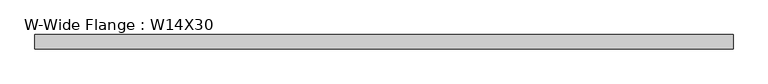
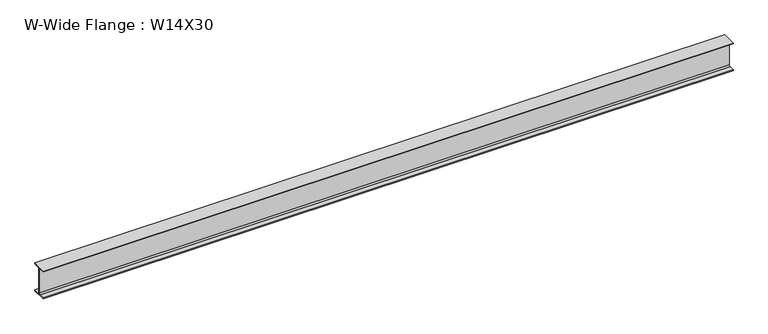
"""IFC4 building model written with IfcOpenShell, lengths in millimetres: beam geometry, W-Wide Flange : W14X30."""

from ifc_helpers import new_model, si_unit, point, frame, frame_2d, origin, place, context, project, spatial, polyline, circle_curve, trimmed, segment, composite_curve, outline, extrude, source, transform, mapped, element, save


def w_wide_flange_w14x30_a3fd6266(model_context):
    return source(origin(), model_context, "Body", "SweptSolid", [
        extrude(outline(composite_curve([segment(polyline([(85.4769531, -165.9433594), (85.4769531, -175.7660156), (-85.4769531, -175.7660156), (-85.4769531, -165.9433594), (-22.1753906, -165.9433594)]), True, "CONTINUOUS"), segment(trimmed(circle_curve(frame_2d((-22.1753906, -147.1910156)), 18.7523438), [point((-22.1753906, -165.9433594))], [point((-3.4230469, -147.1910156))], True, "CARTESIAN"), True, "CONTINUOUS"), segment(polyline([(-3.4230469, -147.1910156), (-3.4230469, 147.1910156)]), True, "CONTINUOUS"), segment(trimmed(circle_curve(frame_2d((-22.1753906, 147.1910156)), 18.7523438), [point((-3.4230469, 147.1910156))], [point((-22.1753906, 165.9433594))], True, "CARTESIAN"), True, "CONTINUOUS"), segment(polyline([(-22.1753906, 165.9433594), (-85.4769531, 165.9433594), (-85.4769531, 175.7660156), (85.4769531, 175.7660156), (85.4769531, 165.9433594), (22.1753906, 165.9433594)]), True, "CONTINUOUS"), segment(trimmed(circle_curve(frame_2d((22.1753906, 147.1910156)), 18.7523438), [point((22.1753906, 165.9433594))], [point((3.4230469, 147.1910156))], True, "CARTESIAN"), True, "CONTINUOUS"), segment(polyline([(3.4230469, 147.1910156), (3.4230469, -147.1910156)]), True, "CONTINUOUS"), segment(trimmed(circle_curve(frame_2d((22.1753906, -147.1910156)), 18.7523438), [point((3.4230469, -147.1910156))], [point((22.1753906, -165.9433594))], True, "CARTESIAN"), True, "CONTINUOUS"), segment(polyline([(22.1753906, -165.9433594), (85.4769531, -165.9433594)]), True, "CONTINUOUS")], self_intersect=False)), frame((-4102.4594962, 0.0, 0.0), z_axis=(1.0, 0.0, 0.0), x_axis=(0.0, 1.0, 0.0)), (0.0, 0.0, 1.0), 8300.4229925),
    ])


if __name__ == "__main__":
    model = new_model("IFC4")
    model_context = context("Model", 3, world=origin())
    ifc_project = project(units=[si_unit("LENGTHUNIT", "METRE", prefix="MILLI")], contexts=[model_context])
    site = spatial("IfcSite", under=ifc_project)
    building = spatial("IfcBuilding", under=site)
    placement = place(None, origin())
    w_wide_flange_w14x30_shape = w_wide_flange_w14x30_a3fd6266(model_context)
    element("IfcBeam", 1, ObjectType="W-Wide Flange : W14X30", at=placement, inside=building, context=model_context, shape_type="MappedRepresentation", body=[
        mapped(w_wide_flange_w14x30_shape, transform((0.0, 0.0, 0.0), x_axis=(1.0, 0.0, 0.0), y_axis=(0.0, 1.0, 0.0), z_axis=(0.0, 0.0, 1.0))),
    ])
    save(model, "model.ifc")
